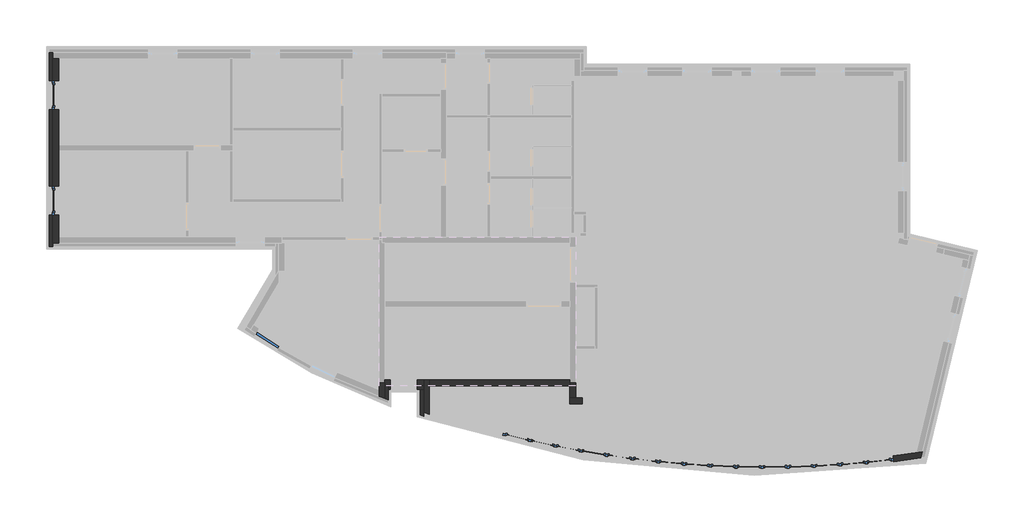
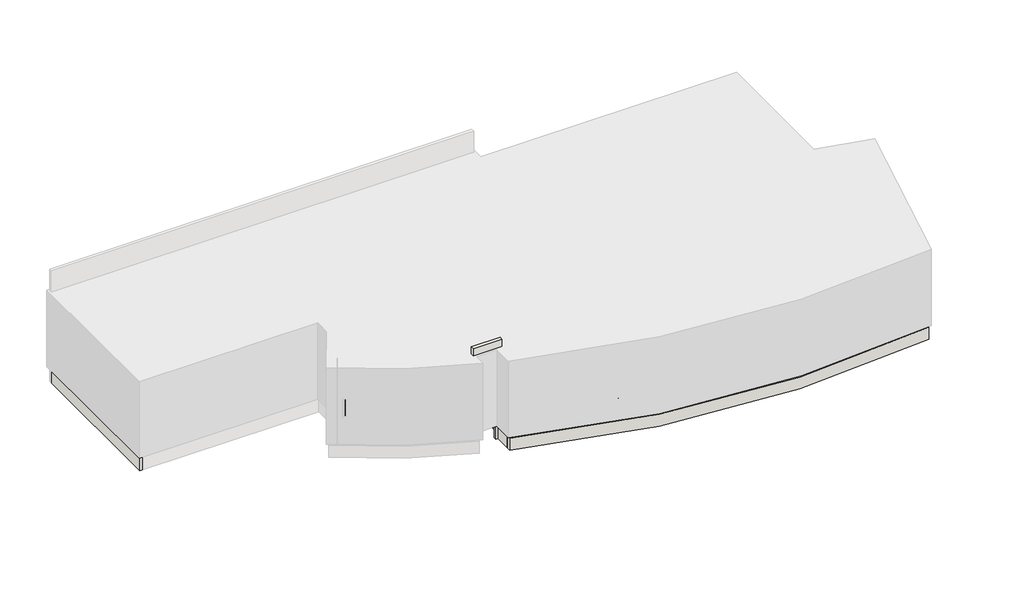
# One storey, part 1 of 4: 18 windows, 16 walls.
"""IFC4 building model written with IfcOpenShell, lengths in millimetres."""

from ifc_helpers import new_model, si_unit, point, frame, frame_2d, origin, place, context, project, spatial, polyline, circle_curve, trimmed, segment, composite_curve, outline, extrude, faceted_brep, transform, mapped, element, save
from ifc_brep_helpers import plane_surface, cylinder_surface, revolved_surface, advanced_brep
from components import window_329c73b1, window_542cb4d6, window_b37a0a77

model = new_model("IFC4")

# Units and contexts
model_context = context("Model", 3, world=origin())
ifc_project = project(units=[si_unit("LENGTHUNIT", "METRE", prefix="MILLI")], contexts=[model_context])

# Site, building, storey
site = spatial("IfcSite", under=ifc_project)
building = spatial("IfcBuilding", under=site)
storey = spatial("IfcBuildingStorey", under=building, Name="Этаж 2", Elevation=3600.0)

# Walls
placement = place(None, origin())
element("IfcWall", 1, ObjectType="(Нр)_(ЖБ-200)", at=placement, inside=storey, context=model_context, shape_type="Brep", body=[
    faceted_brep([(-1595.9332962, 10990.0, 3500.0), (-1595.9332962, 4680.0, 3500.0), (-1595.9332962, 4680.0, 6900.0), (-1595.9332962, 10990.0, 6900.0), (-1595.9332962, 9240.0, 6420.0), (-1595.9332962, 9240.0, 4420.0), (-1595.9332962, 10240.0, 4420.0), (-1595.9332962, 10240.0, 6420.0), (-1595.9332962, 5630.0, 6420.0), (-1595.9332962, 5630.0, 4420.0), (-1595.9332962, 6630.0, 4420.0), (-1595.9332962, 6630.0, 6420.0), (-1395.9332962, 10990.0, 3500.0), (-1395.9332962, 10990.0, 6900.0), (-1395.9332962, 8035.0, 6900.0), (-1395.9332962, 7835.0, 6900.0), (-1395.9332962, 4880.0, 6900.0), (-1395.9332962, 4680.0, 6900.0), (-1395.9332962, 4680.0, 3500.0), (-1395.9332962, 4880.0, 3500.0), (-1395.9332962, 7835.0, 3500.0), (-1395.9332962, 8035.0, 3500.0), (-1395.9332962, 9240.0, 6420.0), (-1395.9332962, 10240.0, 6420.0), (-1395.9332962, 10240.0, 4420.0), (-1395.9332962, 9240.0, 4420.0), (-1395.9332962, 5630.0, 6420.0), (-1395.9332962, 6630.0, 6420.0), (-1395.9332962, 6630.0, 4420.0), (-1395.9332962, 5630.0, 4420.0)], [[[0, 1, 2, 3], [4, 5, 6, 7], [8, 9, 10, 11]], [[12, 13, 14, 15, 16, 17, 18, 19, 20, 21], [22, 23, 24, 25], [26, 27, 28, 29]], [[1, 0, 12, 21, 20, 19, 18]], [[3, 2, 17, 16, 15, 14, 13]], [[0, 3, 13, 12]], [[2, 1, 18, 17]], [[5, 4, 22, 25]], [[6, 5, 25, 24]], [[7, 6, 24, 23]], [[4, 7, 23, 22]], [[9, 8, 26, 29]], [[10, 9, 29, 28]], [[11, 10, 28, 27]], [[8, 11, 27, 26]]]),
])
element("IfcWall", 2, ObjectType="(Нр)_(Ут-120.От-90)", at=placement, inside=storey, context=model_context, shape_type="Brep", body=[
    faceted_brep([(-1595.9332962, 4560.0, 2955.0), (-1595.9332962, 4680.0, 2955.0), (-1595.9332962, 11190.0, 2955.0), (-1595.9332962, 11190.0, 6900.0), (-1595.9332962, 4730.0, 6900.0), (-1595.9332962, 4680.0, 6900.0), (-1595.9332962, 4560.0, 6900.0), (-1595.9332962, 9240.0, 6420.0), (-1595.9332962, 10240.0, 6420.0), (-1595.9332962, 10240.0, 4420.0), (-1595.9332962, 9240.0, 4420.0), (-1595.9332962, 5630.0, 6420.0), (-1595.9332962, 6630.0, 6420.0), (-1595.9332962, 6630.0, 4420.0), (-1595.9332962, 5630.0, 4420.0), (-1715.9332962, 4560.0, 2955.0), (-1715.9332962, 4560.0, 6900.0), (-1715.9332962, 4730.0, 6900.0), (-1715.9332962, 11190.0, 6900.0), (-1715.9332962, 11190.0, 2955.0), (-1715.9332962, 10240.0, 6420.0), (-1715.9332962, 9240.0, 6420.0), (-1715.9332962, 9240.0, 4460.0), (-1715.9332962, 10240.0, 4460.0), (-1715.9332962, 6630.0, 6420.0), (-1715.9332962, 5630.0, 6420.0), (-1715.9332962, 5630.0, 4460.0), (-1715.9332962, 6630.0, 4460.0), (-1615.9332962, 9240.0, 4420.0), (-1615.9332962, 10240.0, 4420.0), (-1615.9332962, 10240.0, 4460.0), (-1615.9332962, 9240.0, 4460.0), (-1691.3681232, 9240.0, 6420.0), (-1691.3681232, 10240.0, 6420.0), (-1691.3681232, 9240.0, 4460.0), (-1691.3681232, 10240.0, 4460.0), (-1615.9332962, 5630.0, 4420.0), (-1615.9332962, 6630.0, 4420.0), (-1615.9332962, 6630.0, 4460.0), (-1615.9332962, 5630.0, 4460.0), (-1691.3681232, 5630.0, 6420.0), (-1691.3681232, 6630.0, 6420.0), (-1691.3681232, 5630.0, 4460.0), (-1691.3681232, 6630.0, 4460.0)], [[[0, 1, 2, 3, 4, 5, 6], [7, 8, 9, 10], [11, 12, 13, 14]], [[15, 16, 17, 18, 19], [20, 21, 22, 23], [24, 25, 26, 27]], [[2, 1, 0, 15, 19]], [[6, 5, 4, 3, 18, 17, 16]], [[3, 2, 19, 18]], [[0, 6, 16, 15]], [[28, 29, 30, 31]], [[8, 7, 32, 21, 20, 33]], [[10, 28, 31, 34, 22, 21, 32, 7]], [[29, 28, 10, 9]], [[29, 9, 8, 33, 20, 23, 35, 30]], [[23, 22, 34, 31, 30, 35]], [[36, 37, 38, 39]], [[12, 11, 40, 25, 24, 41]], [[14, 36, 39, 42, 26, 25, 40, 11]], [[37, 36, 14, 13]], [[37, 13, 12, 41, 24, 27, 43, 38]], [[27, 26, 42, 39, 38, 43]]]),
])
element("IfcWall", 3, ObjectType="(Нр)_(ПБ-200)", at=placement, inside=storey, context=model_context, shape_type="AdvancedBrep", body=[
    advanced_brep(
    [(9550.291724, -100.0, 6900.0), (9550.291724, -100.0, 3500.0), (9550.291724, -343.1855214, 3500.0), (9550.291724, -556.8635531, 3500.0), (9550.291724, -556.8635531, 6700.0), (9550.291724, -556.8635531, 6900.0), (9750.291724, -100.0, 3500.0), (9750.291724, -100.0, 6900.0), (9750.291724, -200.0, 6900.0), (9750.291724, -630.4932495, 6900.0), (9750.291724, -630.4932495, 3500.0)],
    [
        (0, 1),
        (1, 2),
        (2, 3),
        (3, 4),
        (4, 5),
        (5, 0),
        (6, 7),
        (7, 8),
        (8, 9),
        (9, 10),
        (10, 6),
        (1, 6),
        (10, 3, circle_curve(frame((16778.7203102, 18769.2388228, 3500.0), z_axis=(0.0, 0.0, -1.0), x_axis=(1.0, 0.0, 0.0)), 20633.6718223)),
        (5, 9, circle_curve(frame((16778.7203102, 18769.2388228, 6900.0), z_axis=(0.0, 0.0, 1.0), x_axis=(1.0, 0.0, 0.0)), 20633.6718223)),
        (7, 0),
    ],
    [
        plane_surface(frame((9550.291724, -200.0, 3500.0), z_axis=(-1.0, 0.0, 0.0), x_axis=(0.0, -1.0, 0.0))),
        plane_surface(frame((9750.291724, -200.0, 3500.0), z_axis=(1.0, 0.0, 0.0), x_axis=(0.0, 1.0, 0.0))),
        plane_surface(frame((9550.291724, -100.0, 3500.0), z_axis=(0.0, 0.0, -1.0), x_axis=(1.0, 0.0, 0.0))),
        plane_surface(frame((9550.291724, -487.37522, 6900.0), z_axis=(0.0, 0.0, 1.0), x_axis=(1.0, 0.0, 0.0))),
        cylinder_surface(frame((16778.7203102, 18769.2388228, 3500.0), z_axis=(0.0, 0.0, 1.0), x_axis=(1.0, 0.0, 0.0)), 20633.6718223),
        plane_surface(frame((9550.291724, -100.0, 6900.0), z_axis=(0.0, 1.0, 0.0), x_axis=(1.0, 0.0, 0.0))),
    ],
    [
        (0, [[1, 2, 3, 4, 5, 6]]),
        (1, [[7, 8, 9, 10, 11]]),
        (2, [[-3, -2, 12, -11, 13]]),
        (3, [[-6, 14, -9, -8, 15]]),
        (4, [[-5, -4, -13, -10, -14]]),
        (5, [[-15, -7, -12, -1]]),
    ],
),
])
element("IfcWall", 4, ObjectType="(Нр)_(Ут-120.От-90)", at=placement, inside=storey, context=model_context, shape_type="AdvancedBrep", body=[
    advanced_brep(
    [(9750.291724, -200.0, 6700.0), (9750.291724, -200.0, 5900.0), (9750.291724, -200.0, 3500.0), (9750.291724, -630.4932495, 3500.0), (9750.291724, -630.4932495, 6700.0), (9870.291724, -200.0, 3500.0), (9870.291724, -200.0, 6700.0), (9870.291724, -673.5497462, 6700.0), (9870.291724, -673.5497462, 3500.0)],
    [
        (0, 1),
        (1, 2),
        (2, 3),
        (3, 4),
        (4, 0),
        (5, 6),
        (6, 7),
        (7, 8),
        (8, 5),
        (2, 5),
        (8, 3, circle_curve(frame((16778.7203102, 18769.2388228, 3500.0), z_axis=(0.0, 0.0, -1.0), x_axis=(1.0, 0.0, 0.0)), 20633.6718223)),
        (4, 7, circle_curve(frame((16778.7203102, 18769.2388228, 6700.0), z_axis=(0.0, 0.0, 1.0), x_axis=(1.0, 0.0, 0.0)), 20633.6718223)),
        (6, 0),
    ],
    [
        plane_surface(frame((9750.291724, -200.0, 3500.0), z_axis=(-1.0, 0.0, 0.0), x_axis=(0.0, -1.0, 0.0))),
        plane_surface(frame((9870.291724, -200.0, 3500.0), z_axis=(1.0, 0.0, 0.0), x_axis=(0.0, 1.0, 0.0))),
        plane_surface(frame((9750.291724, -184.2163296, 3500.0), z_axis=(0.0, 0.0, -1.0), x_axis=(1.0, 0.0, 0.0))),
        plane_surface(frame((9750.291724, -715.8594968, 6700.0), z_axis=(0.0, 0.0, 1.0), x_axis=(1.0, 0.0, 0.0))),
        cylinder_surface(frame((16778.7203102, 18769.2388228, 3500.0), z_axis=(0.0, 0.0, -1.0), x_axis=(1.0, 0.0, 0.0)), 20633.6718223),
        plane_surface(frame((11120.291724, -200.0, 2950.0), z_axis=(0.0, 1.0, 0.0), x_axis=(0.0, 0.0, -1.0))),
    ],
    [
        (0, [[1, 2, 3, 4, 5]]),
        (1, [[6, 7, 8, 9]]),
        (2, [[-3, 10, -9, 11]]),
        (3, [[-5, 12, -7, 13]]),
        (4, [[-4, -11, -8, -12]]),
        (5, [[-13, -6, -10, -2, -1]]),
    ],
),
])
element("IfcWall", 5, ObjectType="(Нр)_(Ут-120.От-90)", at=placement, inside=storey, context=model_context, shape_type="Brep", body=[
    faceted_brep([(11120.291724, -200.0, 3500.0), (11120.291724, -200.0, 2950.0), (10858.291724, -200.0, 2950.0), (10858.291724, -200.0, 4900.0), (9938.291724, -200.0, 4900.0), (9938.291724, -200.0, 2950.0), (9872.291724, -200.0, 2950.0), (9872.291724, -200.0, 3500.0), (9870.291724, -200.0, 3500.0), (9870.291724, -200.0, 6700.0), (9872.291724, -200.0, 6700.0), (9872.291724, -200.0, 7440.0), (11120.291724, -200.0, 7440.0), (11120.291724, -200.0, 6900.0), (11070.291724, -200.0, 6900.0), (11070.291724, -200.0, 3500.0), (11120.291724, -320.0, 2950.0), (11120.291724, -320.0, 2955.0), (11120.291724, -320.0, 3500.0), (11070.291724, -320.0, 3500.0), (11070.291724, -320.0, 6900.0), (11120.291724, -320.0, 6900.0), (11120.291724, -320.0, 7440.0), (9872.291724, -320.0, 7440.0), (9872.291724, -320.0, 6700.0), (9870.291724, -320.0, 6700.0), (9870.291724, -320.0, 3500.0), (9872.291724, -320.0, 3500.0), (9872.291724, -320.0, 2950.0), (9938.291724, -320.0, 2950.0), (9938.291724, -320.0, 4900.0), (10858.291724, -320.0, 4900.0), (10858.291724, -320.0, 2950.0)], [[[0, 1, 2, 3, 4, 5, 6, 7, 8, 9, 10, 11, 12, 13, 14, 15]], [[16, 17, 18, 19, 20, 21, 22, 23, 24, 25, 26, 27, 28, 29, 30, 31, 32]], [[1, 0, 18, 17, 16]], [[1, 16, 32, 2]], [[28, 6, 5, 29]], [[7, 6, 28, 27]], [[8, 7, 27, 26]], [[9, 8, 26, 25]], [[10, 9, 25, 24]], [[11, 10, 24, 23]], [[12, 11, 23, 22]], [[13, 12, 22, 21]], [[14, 13, 21, 20]], [[15, 14, 20, 19]], [[0, 15, 19, 18]], [[31, 3, 2, 32]], [[4, 30, 29, 5]], [[3, 31, 30, 4]]]),
])
element("IfcWall", 6, ObjectType="(Нр)_(Ут-120.От-90)", at=placement, inside=storey, context=model_context, shape_type="AdvancedBrep", body=[
    advanced_brep(
    [(11070.291724, -1241.0131998, 6900.0), (11070.291724, -1241.0131998, 6700.0), (11070.291724, -1241.0131998, 3500.0), (11070.291724, -1114.2267765, 3500.0), (11070.291724, -320.0, 3500.0), (11070.291724, -320.0, 6900.0), (11070.291724, -1061.3846396, 6900.0), (10950.291724, -1199.9303846, 3500.0), (10950.291724, -1199.9303846, 6900.0), (10950.291724, -1020.0856746, 6900.0), (10950.291724, -320.0, 6900.0), (10950.291724, -320.0, 3500.0), (10950.291724, -1020.0856745, 3500.0)],
    [
        (0, 1),
        (1, 2),
        (2, 3),
        (3, 4),
        (4, 5),
        (5, 6),
        (6, 0),
        (7, 8),
        (8, 9),
        (9, 10),
        (10, 11),
        (11, 12),
        (12, 7),
        (2, 7, circle_curve(frame((22767.3792211, 33121.1499768, 3500.0), z_axis=(0.0, 0.0, -1.0), x_axis=(1.0, 0.0, 0.0)), 36298.4863884)),
        (11, 4),
        (5, 10),
        (8, 0, circle_curve(frame((22767.3792211, 33121.1499768, 6900.0), z_axis=(0.0, 0.0, 1.0), x_axis=(1.0, 0.0, 0.0)), 36298.4863884)),
    ],
    [
        plane_surface(frame((11070.291724, -200.0, 3500.0), z_axis=(1.0, 0.0, 0.0), x_axis=(0.0, 1.0, 0.0))),
        plane_surface(frame((10950.291724, -200.0, 3500.0), z_axis=(-1.0, 0.0, 0.0), x_axis=(0.0, -1.0, 0.0))),
        plane_surface(frame((11070.291724, -1157.1053654, 3500.0), z_axis=(0.0, 0.0, -1.0), x_axis=(-1.0, 0.0, 0.0))),
        plane_surface(frame((11070.291724, -260.0, 6900.0), z_axis=(0.0, 0.0, 1.0), x_axis=(-1.0, 0.0, 0.0))),
        plane_surface(frame((11120.291724, -320.0, 2950.0), z_axis=(0.0, 1.0, 0.0), x_axis=(0.0, 0.0, 1.0))),
        cylinder_surface(frame((22767.3792211, 33121.1499768, 6700.0), z_axis=(0.0, 0.0, 1.0), x_axis=(1.0, 0.0, 0.0)), 36298.4863884),
    ],
    [
        (0, [[1, 2, 3, 4, 5, 6, 7]]),
        (1, [[8, 9, 10, 11, 12, 13]]),
        (2, [[-4, -3, 14, -13, -12, 15]]),
        (3, [[-7, -6, 16, -10, -9, 17]]),
        (4, [[-5, -15, -11, -16]]),
        (5, [[-17, -8, -14, -2, -1]]),
    ],
),
])
element("IfcWall", 7, ObjectType="(Нр)_(ПБ-200)", at=placement, inside=storey, context=model_context, shape_type="AdvancedBrep", body=[
    advanced_brep(
    [(11270.291724, -1181.9090186, 3500.0), (11270.291724, -970.9086569, 3500.0), (11270.291724, 0.0, 3500.0), (11270.291724, 0.0, 5900.0), (11270.291724, -200.0, 5900.0), (11270.291724, -200.0, 6900.0), (11270.291724, -1181.9090186, 6900.0), (11270.291724, -1181.9090186, 6700.0), (11070.291724, -1114.2267764, 3500.0), (11070.291724, -1114.2267764, 6900.0), (11070.291724, -200.0, 6900.0), (11070.291724, -200.0, 5900.0), (11070.291724, 0.0, 5900.0), (11070.291724, 0.0, 3500.0)],
    [
        (0, 1),
        (1, 2),
        (2, 3),
        (3, 4),
        (4, 5),
        (5, 6),
        (6, 7),
        (7, 0),
        (8, 9),
        (9, 10),
        (10, 11),
        (11, 12),
        (12, 13),
        (13, 8),
        (0, 8, circle_curve(frame((22767.3792147, 33121.1499071, 3500.0), z_axis=(0.0, 0.0, -1.0), x_axis=(1.0, 0.0, 0.0)), 36178.4863202)),
        (13, 2),
        (5, 10),
        (9, 6, circle_curve(frame((22767.3792147, 33121.1499071, 6900.0), z_axis=(0.0, 0.0, 1.0), x_axis=(1.0, 0.0, 0.0)), 36178.4863202)),
        (11, 4),
        (3, 12),
    ],
    [
        plane_surface(frame((11270.291724, -970.9086569, 3500.0), z_axis=(1.0, 0.0, 0.0), x_axis=(0.0, 1.0, 0.0))),
        plane_surface(frame((11070.291724, -970.9086569, 3500.0), z_axis=(-1.0, 0.0, 0.0), x_axis=(0.0, -1.0, 0.0))),
        plane_surface(frame((11270.291724, -1042.6428697, 3500.0), z_axis=(0.0, 0.0, -1.0), x_axis=(-1.0, 0.0, 0.0))),
        plane_surface(frame((11270.291724, -100.0, 6900.0), z_axis=(0.0, 0.0, 1.0), x_axis=(-1.0, 0.0, 0.0))),
        cylinder_surface(frame((22767.3792147, 33121.1499071, 3500.0), z_axis=(0.0, 0.0, 1.0), x_axis=(1.0, 0.0, 0.0)), 36178.4863202),
        plane_surface(frame((11270.291724, -100.0, 5900.0), z_axis=(0.0, 0.0, 1.0), x_axis=(1.0, 0.0, 0.0))),
        plane_surface(frame((11070.291724, 0.0, 3500.0), z_axis=(0.0, 1.0, 0.0), x_axis=(-1.0, 0.0, 0.0))),
        plane_surface(frame((16170.0, -200.0, 5900.0), z_axis=(0.0, 1.0, 0.0), x_axis=(1.0, 0.0, 0.0))),
    ],
    [
        (0, [[1, 2, 3, 4, 5, 6, 7, 8]]),
        (1, [[9, 10, 11, 12, 13, 14]]),
        (2, [[-2, -1, 15, -14, 16]]),
        (3, [[-6, 17, -10, 18]]),
        (4, [[-8, -7, -18, -9, -15]]),
        (5, [[19, -4, 20, -12]]),
        (6, [[-3, -16, -13, -20]]),
        (7, [[-5, -19, -11, -17]]),
    ],
),
])
element("IfcWall", 8, ObjectType="(Нр)_(ПБ-200)", at=placement, inside=storey, context=model_context, shape_type="AdvancedBrep", body=[
    advanced_brep(
    [(11270.291724, -1181.9090186, 6700.0), (28052.9241912, -2669.1544605, 6700.0), (28103.6726169, -2459.3988608, 6700.0), (27890.3054336, -2490.7455212, 6700.0), (11270.291724, -970.9086569, 6700.0), (28052.9241912, -2669.1544605, 3500.0), (11270.291724, -1181.9090186, 3500.0), (11270.291724, -970.9086569, 3500.0), (27890.3054336, -2490.7455212, 3500.0), (28103.6726169, -2459.3988608, 3500.0), (13765.0805718, -1919.4193173, 6069.2190507), (27129.2638689, -2793.4270038, 6069.2190507), (27129.2638689, -2793.4270038, 4280.0), (13765.0805718, -1919.4193173, 4280.0), (27105.1507282, -2594.8859339, 6069.2190507), (13814.8466043, -1725.7098906, 6069.2190507), (13814.8466043, -1725.7098906, 4280.0), (27105.1507282, -2594.8859339, 4280.0)],
    [
        (0, 1, circle_curve(frame((22767.3792147, 33121.1499071, 6700.0), z_axis=(0.0, 0.0, 1.0), x_axis=(1.0, 0.0, 0.0)), 36178.4863202)),
        (1, 2),
        (2, 3, circle_curve(frame((22767.3792147, 33121.1499071, 6700.0), z_axis=(0.0, 0.0, -1.0), x_axis=(1.0, 0.0, 0.0)), 35978.4863202)),
        (3, 4, circle_curve(frame((22767.3792147, 33121.1499071, 6700.0), z_axis=(0.0, 0.0, -1.0), x_axis=(1.0, 0.0, 0.0)), 35978.4861971)),
        (4, 0),
        (5, 6, circle_curve(frame((22767.3792147, 33121.1499071, 3500.0), z_axis=(0.0, 0.0, -1.0), x_axis=(1.0, 0.0, 0.0)), 36178.4863202)),
        (6, 7),
        (7, 8, circle_curve(frame((22767.3792147, 33121.1499071, 3500.0), z_axis=(0.0, 0.0, 1.0), x_axis=(1.0, 0.0, 0.0)), 35978.4863202)),
        (8, 9, circle_curve(frame((22767.3792147, 33121.1499071, 3500.0), z_axis=(0.0, 0.0, 1.0), x_axis=(1.0, 0.0, 0.0)), 35978.4861971)),
        (9, 5),
        (0, 6),
        (5, 1),
        (10, 11, circle_curve(frame((22767.3792147, 33121.1499071, 6069.2190507), z_axis=(0.0, 0.0, 1.0), x_axis=(1.0, 0.0, 0.0)), 36178.4863202)),
        (11, 12),
        (12, 13, circle_curve(frame((22767.3792147, 33121.1499071, 4280.0), z_axis=(0.0, 0.0, -1.0), x_axis=(1.0, 0.0, 0.0)), 36178.4863202)),
        (13, 10),
        (2, 9),
        (7, 4),
        (14, 15, circle_curve(frame((22767.3792147, 33121.1499071, 6069.2190507), z_axis=(0.0, 0.0, -1.0), x_axis=(1.0, 0.0, 0.0)), 35978.4863202)),
        (15, 16),
        (16, 17, circle_curve(frame((22767.3792147, 33121.1499071, 4280.0), z_axis=(0.0, 0.0, 1.0), x_axis=(1.0, 0.0, 0.0)), 35978.4863202)),
        (17, 14),
        (14, 11),
        (10, 15),
        (16, 13),
        (12, 17),
    ],
    [
        plane_surface(frame((58945.8655349, 33121.1499071, 6700.0), z_axis=(0.0, 0.0, 1.0), x_axis=(0.0, 1.0, 0.0))),
        plane_surface(frame((58945.8655349, 33121.1499071, 3500.0), z_axis=(0.0, 0.0, -1.0), x_axis=(0.0, -1.0, 0.0))),
        cylinder_surface(frame((22767.3792147, 33121.1499071, 3500.0), z_axis=(0.0, 0.0, 1.0), x_axis=(1.0, 0.0, 0.0)), 36178.4863202),
        revolved_surface(polyline([(58745.8655349, 33121.1499071, 3500.0), (58745.8655349, 33121.1499071, 6700.0)]), (22767.3792147, 33121.1499071, 3500.0), (0.0, 0.0, -1.0)),
        plane_surface(frame((11270.291724, -970.9086569, 3500.0), z_axis=(-1.0, 0.0, 0.0), x_axis=(0.0, 1.0, 0.0))),
        plane_surface(frame((29686.7073307, 4083.6690493, 3500.0), z_axis=(0.9719576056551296, -0.2351561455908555, 0.0), x_axis=(0.2351561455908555, 0.9719576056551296, 0.0))),
        plane_surface(frame((58945.8655349, 33121.1499071, 6069.2190507), z_axis=(0.0, 0.0, -1.0), x_axis=(0.0, 1.0, 0.0))),
        plane_surface(frame((58945.8655349, 33121.1499071, 4280.0), z_axis=(0.0, 0.0, 1.0), x_axis=(0.0, -1.0, 0.0))),
        plane_surface(frame((27129.2638689, -2793.4270038, 6069.2190507), z_axis=(-0.9927053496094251, -0.12056570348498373, 0.0), x_axis=(0.0, 0.0, -1.0))),
        plane_surface(frame((13814.8466043, -1725.7098906, 6069.2190507), z_axis=(0.9685471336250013, -0.2488301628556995, 0.0), x_axis=(0.0, 0.0, -1.0))),
    ],
    [
        (0, [[1, 2, 3, 4, 5]]),
        (1, [[6, 7, 8, 9, 10]]),
        (2, [[-1, 11, -6, 12], [13, 14, 15, 16]]),
        (3, [[-4, -3, 17, -9, -8, 18], [19, 20, 21, 22]]),
        (4, [[-5, -18, -7, -11]]),
        (5, [[-2, -12, -10, -17]]),
        (6, [[23, -13, 24, -19]]),
        (7, [[25, -15, 26, -21]]),
        (8, [[-23, -22, -26, -14]]),
        (9, [[-24, -16, -25, -20]]),
    ],
),
])
element("IfcWall", 9, ObjectType="(Вн)_(ЖБ-200)", at=placement, inside=storey, context=model_context, shape_type="Brep", body=[
    faceted_brep([(16070.291724, -820.0, 3500.0), (16490.0, -820.0, 3500.0), (16490.0, -820.0, 6900.0), (16070.291724, -820.0, 6900.0), (16070.291724, -620.0, 3500.0), (16070.291724, -620.0, 6900.0), (16270.291724, -620.0, 6900.0), (16490.0, -620.0, 6900.0), (16490.0, -620.0, 3500.0), (16270.291724, -620.0, 3500.0)], [[[0, 1, 2, 3]], [[4, 5, 6, 7, 8, 9]], [[1, 0, 4, 9, 8]], [[2, 1, 8, 7]], [[3, 2, 7, 6, 5]], [[0, 3, 5, 4]]]),
])
element("IfcWall", 10, ObjectType="(Вн)_(ЖБ-200)", at=placement, inside=storey, context=model_context, shape_type="Brep", body=[
    faceted_brep([(16270.291724, -620.0, 3500.0), (16270.291724, -100.0, 3500.0), (16270.291724, -100.0, 5700.0), (16270.291724, -100.0, 5900.0), (16270.291724, 0.0, 5900.0), (16270.291724, 0.0, 6900.0), (16270.291724, -620.0, 6900.0), (16070.291724, -620.0, 3500.0), (16070.291724, -620.0, 6900.0), (16070.291724, 0.0, 6900.0), (16070.291724, 0.0, 5900.0), (16070.291724, -100.0, 5900.0), (16070.291724, -100.0, 5700.0), (16070.291724, -100.0, 3500.0), (16070.291724, -200.0, 3500.0)], [[[0, 1, 2, 3, 4, 5, 6]], [[7, 8, 9, 10, 11, 12, 13, 14]], [[1, 0, 7, 14, 13]], [[6, 5, 9, 8]], [[3, 2, 1, 13, 12, 11]], [[10, 4, 3, 11]], [[0, 6, 8, 7]], [[5, 4, 10, 9]]]),
])
element("IfcWall", 11, ObjectType="(Нр)_(ЖБ-200)", at=placement, inside=storey, context=model_context, shape_type="SweptSolid", body=[
    extrude(outline(polyline([(5700.0, 11070.291724), (5700.0, 9750.291724), (3500.0, 9750.291724), (3500.0, 9752.291724), (3300.0, 9752.291724), (3300.0, 9938.291724), (4900.0, 9938.291724), (4900.0, 10858.291724), (3300.0, 10858.291724), (3300.0, 11070.291724), (5700.0, 11070.291724)])), frame((0.0, -200.0, 0.0), z_axis=(0.0, 1.0, 0.0), x_axis=(0.0, 0.0, 1.0)), (0.0, 0.0, 1.0), 200.0),
])
element("IfcWall", 12, ObjectType="(Вн)_(ЖБ-200)", at=placement, inside=storey, context=model_context, shape_type="Brep", body=[
    faceted_brep([(16070.291724, 0.0, 3500.0), (11270.291724, 0.0, 3500.0), (11270.291724, 0.0, 5700.0), (16070.291724, 0.0, 5700.0), (16070.291724, -200.0, 3500.0), (16070.291724, -200.0, 5700.0), (11270.291724, -200.0, 5700.0), (11270.291724, -200.0, 3500.0), (16070.291724, -100.0, 3500.0), (16070.291724, -100.0, 5700.0)], [[[0, 1, 2, 3]], [[4, 5, 6, 7]], [[1, 0, 8, 4, 7]], [[3, 2, 6, 5, 9]], [[0, 3, 9, 5, 4, 8]], [[2, 1, 7, 6]]]),
])
element("IfcWall", 13, ObjectType="(Нр)_(Ут-170.От-90)", at=placement, inside=storey, context=model_context, shape_type="AdvancedBrep", body=[
    advanced_brep(
    [(10950.291724, -1199.9303846, 3500.0), (28150.5488056, -2775.9473893, 3500.0), (28193.7211946, -2597.505394, 3500.0), (28012.247618, -2624.6032598, 3500.0), (11120.3039673, -1078.4575852, 3500.0), (10950.291724, -1020.0856745, 3500.0), (10950.291724, -1199.9303846, 2955.0), (10950.291724, -1020.0856745, 2955.0), (11120.3039673, -1078.4575852, 2955.0), (28012.247618, -2624.6032598, 2955.0), (28193.7211946, -2597.505394, 2955.0), (28150.5488056, -2775.9473893, 2955.0)],
    [
        (0, 1, circle_curve(frame((22767.3792147, 33121.1499071, 3500.0), z_axis=(0.0, 0.0, 1.0), x_axis=(1.0, 0.0, 0.0)), 36298.4863204)),
        (1, 2),
        (2, 3, circle_curve(frame((22767.3792147, 33121.1499071, 3500.0), z_axis=(0.0, 0.0, -1.0), x_axis=(1.0, 0.0, 0.0)), 36128.4863204)),
        (3, 4, circle_curve(frame((22767.3792147, 33121.1499071, 3500.0), z_axis=(0.0, 0.0, -1.0), x_axis=(1.0, 0.0, 0.0)), 36128.4861853)),
        (4, 5, circle_curve(frame((22767.3792147, 33121.1499071, 3500.0), z_axis=(0.0, 0.0, -1.0), x_axis=(1.0, 0.0, 0.0)), 36128.4861909)),
        (5, 0),
        (6, 7),
        (7, 8, circle_curve(frame((22767.3792147, 33121.1499071, 2955.0), z_axis=(0.0, 0.0, 1.0), x_axis=(1.0, 0.0, 0.0)), 36128.4863204)),
        (8, 9, circle_curve(frame((22767.3792147, 33121.1499071, 2955.0), z_axis=(0.0, 0.0, 1.0), x_axis=(1.0, 0.0, 0.0)), 36128.4861909)),
        (9, 10, circle_curve(frame((22767.3792147, 33121.1499071, 2955.0), z_axis=(0.0, 0.0, 1.0), x_axis=(1.0, 0.0, 0.0)), 36128.4861853)),
        (10, 11),
        (11, 6, circle_curve(frame((22767.3792147, 33121.1499071, 2955.0), z_axis=(0.0, 0.0, -1.0), x_axis=(1.0, 0.0, 0.0)), 36298.4863204)),
        (0, 6),
        (11, 1),
        (2, 10),
        (7, 5),
    ],
    [
        plane_surface(frame((59065.865535, 33121.1499071, 3500.0), z_axis=(0.0, 0.0, 1.0), x_axis=(0.0, 1.0, 0.0))),
        plane_surface(frame((59065.865535, 33121.1499071, 2955.0), z_axis=(0.0, 0.0, -1.0), x_axis=(0.0, -1.0, 0.0))),
        cylinder_surface(frame((22767.3792147, 33121.1499071, 2955.0), z_axis=(0.0, 0.0, 1.0), x_axis=(1.0, 0.0, 0.0)), 36298.4863204),
        revolved_surface(polyline([(58895.8655351, 33121.1499071, 2955.0), (58895.8655351, 33121.1499071, 3500.0)]), (22767.3792147, 33121.1499071, 2955.0), (0.0, 0.0, -1.0)),
        plane_surface(frame((10950.291724, -200.0, 2955.0), z_axis=(-1.0, 0.0, 0.0), x_axis=(0.0, -1.0, 0.0))),
        plane_surface(frame((29850.3734725, 4249.841833, 2955.0), z_axis=(0.9719576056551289, -0.2351561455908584, 0.0), x_axis=(0.2351561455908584, 0.9719576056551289, 0.0))),
    ],
    [
        (0, [[1, 2, 3, 4, 5, 6]]),
        (1, [[7, 8, 9, 10, 11, 12]]),
        (2, [[-1, 13, -12, 14]]),
        (3, [[-5, -4, -3, 15, -10, -9, -8, 16]]),
        (4, [[-6, -16, -7, -13]]),
        (5, [[-2, -14, -11, -15]]),
    ],
),
])
element("IfcWall", 14, ObjectType="(Нр)_(Ут-120.От-90)", at=placement, inside=storey, context=model_context, shape_type="AdvancedBrep", body=[
    advanced_brep(
    [(9752.291724, -320.0, 3500.0), (9752.291724, -320.0, 2930.0), (9752.291724, -578.0309331, 2930.0), (9752.291724, -578.0309331, 3500.0), (9872.291724, -320.0, 2930.0), (9872.291724, -320.0, 3500.0), (9872.291724, -621.1915455, 3500.0), (9872.291724, -621.1915455, 2955.0), (9872.291724, -621.1915455, 2930.0)],
    [
        (0, 1),
        (1, 2),
        (2, 3),
        (3, 0),
        (4, 5),
        (5, 6),
        (6, 7),
        (7, 8),
        (8, 4),
        (1, 4),
        (8, 2, circle_curve(frame((16778.7203102, 18769.2388228, 2930.0), z_axis=(0.0, 0.0, -1.0), x_axis=(1.0, 0.0, 0.0)), 20583.6718223)),
        (3, 6, circle_curve(frame((16778.7203102, 18769.2388228, 3500.0), z_axis=(0.0, 0.0, 1.0), x_axis=(1.0, 0.0, 0.0)), 20583.6718223)),
        (5, 0),
    ],
    [
        plane_surface(frame((9752.291724, -200.0, 2930.0), z_axis=(-1.0, 0.0, 0.0), x_axis=(0.0, -1.0, 0.0))),
        plane_surface(frame((9872.291724, -200.0, 2930.0), z_axis=(1.0, 0.0, 0.0), x_axis=(0.0, 1.0, 0.0))),
        plane_surface(frame((9752.291724, -184.9515299, 2930.0), z_axis=(0.0, 0.0, -1.0), x_axis=(1.0, 0.0, 0.0))),
        plane_surface(frame((9752.291724, -690.0229219, 3500.0), z_axis=(0.0, 0.0, 1.0), x_axis=(1.0, 0.0, 0.0))),
        cylinder_surface(frame((16778.7203102, 18769.2388228, 2955.0), z_axis=(0.0, 0.0, -1.0), x_axis=(1.0, 0.0, 0.0)), 20583.6718223),
        plane_surface(frame((11120.291724, -320.0, 2950.0), z_axis=(0.0, 1.0, 0.0), x_axis=(0.0, 0.0, 1.0))),
    ],
    [
        (0, [[1, 2, 3, 4]]),
        (1, [[5, 6, 7, 8, 9]]),
        (2, [[-2, 10, -9, 11]]),
        (3, [[-4, 12, -6, 13]]),
        (4, [[-3, -11, -8, -7, -12]]),
        (5, [[-13, -5, -10, -1]]),
    ],
),
])
element("IfcWall", 15, ObjectType="(Нр)_(Ут-170.От-90)", at=placement, inside=storey, context=model_context, shape_type="AdvancedBrep", body=[
    advanced_brep(
    [(11120.291724, -1078.4535524, 2955.0), (11120.291724, -320.0, 2955.0), (11120.291724, -320.0, 3500.0), (11120.291724, -1078.4535524, 3500.0), (10950.291724, -1020.0856745, 2955.0), (10950.291724, -1020.0856745, 3500.0), (10950.291724, -320.0, 3500.0), (10950.291724, -320.0, 2955.0), (11070.291724, -320.0, 3500.0)],
    [
        (0, 1),
        (1, 2),
        (2, 3),
        (3, 0),
        (4, 5),
        (5, 6),
        (6, 7),
        (7, 4),
        (0, 4, circle_curve(frame((22767.3792147, 33121.1499071, 2955.0), z_axis=(0.0, 0.0, -1.0), x_axis=(1.0, 0.0, 0.0)), 36128.4863204)),
        (7, 1),
        (2, 8),
        (8, 6),
        (5, 3, circle_curve(frame((22767.3792147, 33121.1499071, 3500.0), z_axis=(0.0, 0.0, 1.0), x_axis=(1.0, 0.0, 0.0)), 36128.4863204)),
    ],
    [
        plane_surface(frame((11120.291724, -200.0, 2955.0), z_axis=(1.0, 0.0, 0.0), x_axis=(0.0, 1.0, 0.0))),
        plane_surface(frame((10950.291724, -200.0, 2955.0), z_axis=(-1.0, 0.0, 0.0), x_axis=(0.0, -1.0, 0.0))),
        plane_surface(frame((11120.291724, -1139.2458085, 2955.0), z_axis=(0.0, 0.0, -1.0), x_axis=(-1.0, 0.0, 0.0))),
        plane_surface(frame((11120.291724, -260.0, 3500.0), z_axis=(0.0, 0.0, 1.0), x_axis=(-1.0, 0.0, 0.0))),
        plane_surface(frame((11120.291724, -320.0, 2950.0), z_axis=(0.0, 1.0, 0.0), x_axis=(0.0, 0.0, 1.0))),
        cylinder_surface(frame((22767.3792147, 33121.1499071, 2955.0), z_axis=(0.0, 0.0, -1.0), x_axis=(1.0, 0.0, 0.0)), 36128.4863204),
    ],
    [
        (0, [[1, 2, 3, 4]]),
        (1, [[5, 6, 7, 8]]),
        (2, [[-1, 9, -8, 10]]),
        (3, [[-3, 11, 12, -6, 13]]),
        (4, [[-2, -10, -7, -12, -11]]),
        (5, [[-4, -13, -5, -9]]),
    ],
),
])
element("IfcWall", 16, ObjectType="(Нр)_(Ут-170.От-90)", at=placement, inside=storey, context=model_context, shape_type="SweptSolid", body=[
    extrude(outline(composite_curve([segment(polyline([(27584.099694, -2375.2116252), (27541.7477538, -2550.2625057)]), True, "CONTINUOUS"), segment(trimmed(circle_curve(frame_2d((23385.1310559, 39543.8806022)), 42298.8693272), [point((27541.7477538, -2550.2625057))], [point((11169.4579966, -952.6831788))], False, "CARTESIAN"), True, "CONTINUOUS"), segment(polyline([(11169.4579966, -952.6831788), (11218.5530304, -789.9266808)]), True, "CONTINUOUS"), segment(trimmed(circle_curve(frame_2d((23385.1310559, 39543.8806022)), 42128.8693272), [point((11218.5530304, -789.9266808))], [point((27584.099694, -2375.2116252))], True, "CARTESIAN"), True, "CONTINUOUS")], self_intersect=False)), frame((0.0, 0.0, 2955.0), z_axis=(0.0, 0.0, 1.0), x_axis=(1.0, 0.0, 0.0)), (0.0, 0.0, 1.0), 225.0),
])

# Windows
window_shape = window_329c73b1(model_context)
element("IfcWindow", 17, ObjectType="RFAM2316_Window-10 : Window  FIX (0,9x0,9)", at=placement, inside=storey, context=model_context, shape_type="MappedRepresentation", body=[
    mapped(window_shape, transform((5915.8099778, 1153.8618185, 3840.0), x_axis=(-0.8445886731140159, 0.5354157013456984, 0.0), y_axis=(-0.5354157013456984, -0.8445886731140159, 0.0), z_axis=(0.0, 0.0, 1.0))),
])
window_2_shape = window_542cb4d6(model_context)
element("IfcWindow", 18, ObjectType="RFAM2316_Window-10 : Window  FIX (0,89x1,8)", at=placement, inside=storey, context=model_context, shape_type="MappedRepresentation", body=[
    mapped(window_2_shape, transform((14481.7976371, -2160.0840596, 3380.0), x_axis=(-0.9718699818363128, 0.23551802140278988, 0.0), y_axis=(-0.23551802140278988, -0.9718699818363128, 0.0), z_axis=(0.0, 0.0, 1.0))),
])
element("IfcWindow", 19, ObjectType="RFAM2316_Window-10 : Window  FIX (0,89x1,8)", at=placement, inside=storey, context=model_context, shape_type="MappedRepresentation", body=[
    mapped(window_2_shape, transform((15350.3457079, -2352.839807, 3380.0), x_axis=(-0.9773584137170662, 0.21159047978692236, 0.0), y_axis=(-0.21159047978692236, -0.9773584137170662, 0.0), z_axis=(0.0, 0.0, 1.0))),
])
element("IfcWindow", 20, ObjectType="RFAM2316_Window-10 : Window  FIX (0,89x1,8)", at=placement, inside=storey, context=model_context, shape_type="MappedRepresentation", body=[
    mapped(window_2_shape, transform((17107.0844953, -2675.1822506, 3380.0), x_axis=(-0.9865961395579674, 0.16318105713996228, 0.0), y_axis=(-0.16318105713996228, -0.9865961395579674, 0.0), z_axis=(0.0, 0.0, 1.0))),
])
element("IfcWindow", 21, ObjectType="RFAM2316_Window-10 : Window  FIX (0,89x1,8)", at=placement, inside=storey, context=model_context, shape_type="MappedRepresentation", body=[
    mapped(window_2_shape, transform((18879.4290036, -2910.782811, 3380.0), x_axis=(-0.9934435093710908, 0.11432407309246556, 0.0), y_axis=(-0.11432407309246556, -0.9934435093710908, 0.0), z_axis=(0.0, 0.0, 1.0))),
])
element("IfcWindow", 22, ObjectType="RFAM2316_Window-10 : Window  FIX (0,89x1,8)", at=placement, inside=storey, context=model_context, shape_type="MappedRepresentation", body=[
    mapped(window_2_shape, transform((20658.6829864, -3058.536831, 3380.0), x_axis=(-0.997868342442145, 0.06525926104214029, 0.0), y_axis=(-0.06525926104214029, -0.997868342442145, 0.0), z_axis=(0.0, 0.0, 1.0))),
])
element("IfcWindow", 23, ObjectType="RFAM2316_Window-10 : Window  FIX (0,89x1,8)", at=placement, inside=storey, context=model_context, shape_type="MappedRepresentation", body=[
    mapped(window_2_shape, transform((22439.1468434, -3118.449922, 3380.0), x_axis=(-0.9998696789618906, 0.016143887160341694, 0.0), y_axis=(-0.016143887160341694, -0.9998696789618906, 0.0), z_axis=(0.0, 0.0, 1.0))),
])
element("IfcWindow", 24, ObjectType="RFAM2316_Window-10 : Window  FIX (0,89x1,8)", at=placement, inside=storey, context=model_context, shape_type="MappedRepresentation", body=[
    mapped(window_2_shape, transform((24220.5790244, -3090.7893202, 3380.0), x_axis=(-0.9994548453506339, -0.033015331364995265, 0.0), y_axis=(0.033015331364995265, -0.9994548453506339, 0.0), z_axis=(0.0, 0.0, 1.0))),
])
element("IfcWindow", 25, ObjectType="RFAM2316_Window-10 : Window  FIX (0,89x1,8)", at=placement, inside=storey, context=model_context, shape_type="MappedRepresentation", body=[
    mapped(window_2_shape, transform((26012.2197753, -2974.3808698, 3380.0), x_axis=(-0.9965932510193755, -0.08247358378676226, 0.0), y_axis=(0.08247358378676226, -0.9965932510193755, 0.0), z_axis=(0.0, 0.0, 1.0))),
])
element("IfcWindow", 26, ObjectType="RFAM2316_Window-10 : Window  FIX (0,89x1,8)", at=placement, inside=storey, context=model_context, shape_type="MappedRepresentation", body=[
    mapped(window_2_shape, transform((16229.6050023, -2525.3624134, 3380.0), x_axis=(-0.9822906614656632, 0.18736343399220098, 0.0), y_axis=(-0.18736343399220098, -0.9822906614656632, 0.0), z_axis=(0.0, 0.0, 1.0))),
])
element("IfcWindow", 27, ObjectType="RFAM2316_Window-10 : Window  FIX (0,89x1,8)", at=placement, inside=storey, context=model_context, shape_type="MappedRepresentation", body=[
    mapped(window_2_shape, transform((17991.9253767, -2803.9300913, 3380.0), x_axis=(-0.9903216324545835, 0.1387914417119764, 0.0), y_axis=(-0.1387914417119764, -0.9903216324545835, 0.0), z_axis=(0.0, 0.0, 1.0))),
])
element("IfcWindow", 28, ObjectType="RFAM2316_Window-10 : Window  FIX (0,89x1,8)", at=placement, inside=storey, context=model_context, shape_type="MappedRepresentation", body=[
    mapped(window_2_shape, transform((19768.8492587, -2995.6765087, 3380.0), x_axis=(-0.9959598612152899, 0.08979952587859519, 0.0), y_axis=(-0.08979952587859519, -0.9959598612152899, 0.0), z_axis=(0.0, 0.0, 1.0))),
])
element("IfcWindow", 29, ObjectType="RFAM2316_Window-10 : Window  FIX (0,89x1,8)", at=placement, inside=storey, context=model_context, shape_type="MappedRepresentation", body=[
    mapped(window_2_shape, transform((21551.0084964, -3099.5178743, 3380.0), x_axis=(-0.999173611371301, 0.0406459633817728, 0.0), y_axis=(-0.0406459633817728, -0.999173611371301, 0.0), z_axis=(0.0, 0.0, 1.0))),
])
element("IfcWindow", 30, ObjectType="RFAM2316_Window-10 : Window  FIX (0,89x1,8)", at=placement, inside=storey, context=model_context, shape_type="MappedRepresentation", body=[
    mapped(window_2_shape, transform((23331.1312244, -3115.5513217, 3380.0), x_axis=(-0.9999641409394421, -0.008468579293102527, 0.0), y_axis=(0.008468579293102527, -0.9999641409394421, 0.0), z_axis=(0.0, 0.0, 1.0))),
])
element("IfcWindow", 31, ObjectType="RFAM2316_Window-10 : Window  FIX (0,89x1,8)", at=placement, inside=storey, context=model_context, shape_type="MappedRepresentation", body=[
    mapped(window_2_shape, transform((25113.9809545, -3043.885591, 3380.0), x_axis=(-0.9983353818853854, -0.05767551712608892, 0.0), y_axis=(0.05767551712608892, -0.9983353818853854, 0.0), z_axis=(0.0, 0.0, 1.0))),
])
element("IfcWindow", 32, ObjectType="RFAM2316_Window-10 : Window  FIX (0,89x1,8)", at=placement, inside=storey, context=model_context, shape_type="MappedRepresentation", body=[
    mapped(window_2_shape, transform((26902.4932512, -2883.2548825, 3380.0), x_axis=(-0.9942529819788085, -0.10705609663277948, 0.0), y_axis=(0.10705609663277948, -0.9942529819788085, 0.0), z_axis=(0.0, 0.0, 1.0))),
])
window_3_shape = window_b37a0a77(model_context)
element("IfcWindow", 33, ObjectType="RFAM2316_Window-10 : Window  FIX (1,0x2)", at=placement, inside=storey, context=model_context, shape_type="MappedRepresentation", body=[
    mapped(window_3_shape, transform((-1660.8740129, 9483.1415906, 3520.0), x_axis=(0.0, 1.0, 0.0), y_axis=(-1.0, 0.0, 0.0), z_axis=(0.0, 0.0, 1.0))),
])
element("IfcWindow", 34, ObjectType="RFAM2316_Window-10 : Window  FIX (1,0x2)", at=placement, inside=storey, context=model_context, shape_type="MappedRepresentation", body=[
    mapped(window_3_shape, transform((-1660.8740129, 5873.1415906, 3520.0), x_axis=(0.0, 1.0, 0.0), y_axis=(-1.0, 0.0, 0.0), z_axis=(0.0, 0.0, 1.0))),
])

save(model, "model.ifc")
